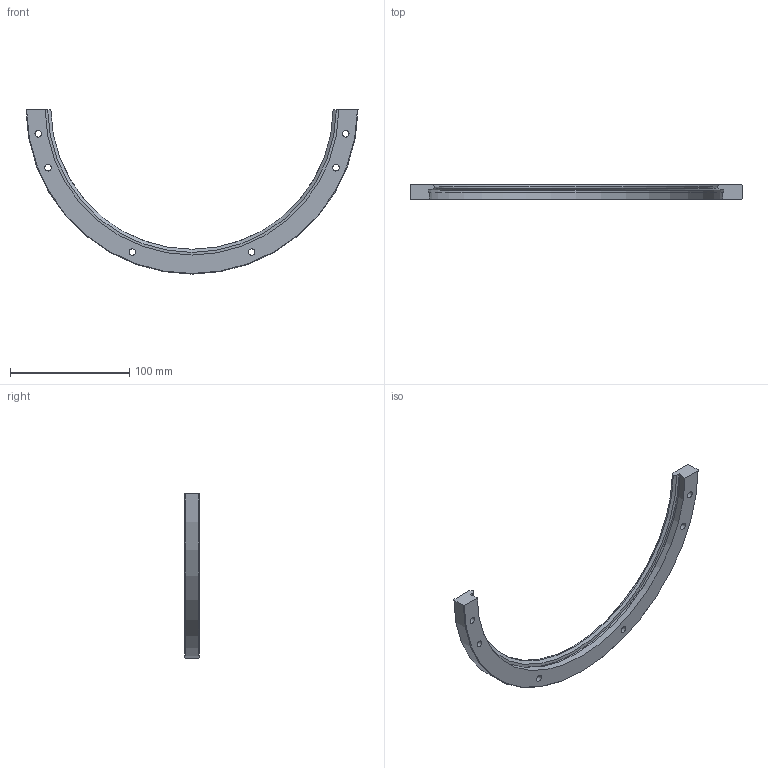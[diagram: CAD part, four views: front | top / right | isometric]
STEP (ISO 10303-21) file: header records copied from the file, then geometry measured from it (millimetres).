
FILE_DESCRIPTION( ( 'STEP AP203' ), '1' );
FILE_NAME( 'p:/temp/worker_25/temp/exporttempdir_4792_1094_6N0RY/format_0/TRIS 278 R180 .stp', '2021-09-17T07:47:34', ( 'License CC BY-ND 4.0' ), ( 'CADENAS' ), ' ', 'PARTsolutions', ' ' );
FILE_SCHEMA( ( 'CONFIG_CONTROL_DESIGN' ) );
Length unit declared in the file: millimetre
Products named in the file (1): _TRIS 278 R180  
Bounding box: 277.98 x 12.25 x 137.5 mm (x, y, z)
Volume: 82338.1 mm3; surface area: 27710.4 mm2
Topology: 1 solids, 1 shells, 32 faces, 72 edges, 48 vertices
Faces by surface type: cylinder 15, plane 12, cone 4, torus 1
Full cylindrical faces by diameter (mm): 5.5 x6, 10 x6
Entity records: 942 total; most frequent: CARTESIAN_POINT 183, DIRECTION 152, ORIENTED_EDGE 120, AXIS2_PLACEMENT_3D 69, EDGE_LOOP 62, EDGE_CURVE 60, VERTEX_POINT 48, FACE_OUTER_BOUND 44
